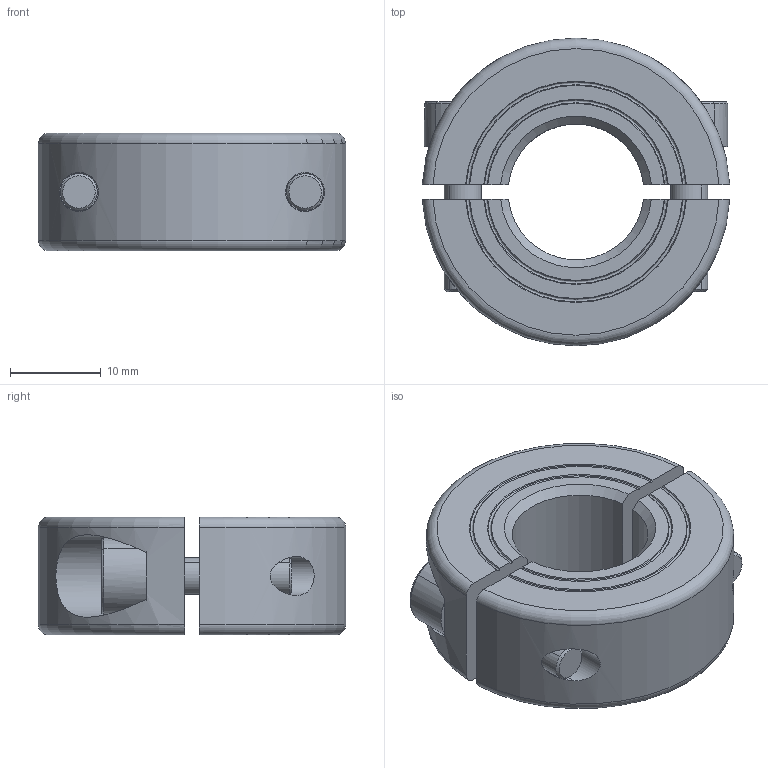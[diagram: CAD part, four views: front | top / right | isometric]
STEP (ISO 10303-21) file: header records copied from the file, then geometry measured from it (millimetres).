
FILE_DESCRIPTION((''),'2;1');
FILE_NAME('MSP-15-X','2016-09-09T',('SYSTEM'),(''),'PRO/ENGINEER BY PARAMETRIC TECHNOLOGY CORPORATION, 2015110','PRO/ENGINEER BY PARAMETRIC TECHNOLOGY CORPORATION, 2015110','');
FILE_SCHEMA(('AUTOMOTIVE_DESIGN { 1 0 10303 214 1 1 1 1 }'));
Length unit declared in the file: inch
Products named in the file (1): MSP-15-X
Bounding box: 33.96 x 34 x 13 mm (x, y, z)
Volume: 8647 mm3; surface area: 5023.6 mm2
Topology: 2 solids, 2 shells, 90 faces, 223 edges, 145 vertices
Faces by surface type: plane 36, cylinder 26, cone 20, torus 8
Entity records: 2978 total; most frequent: CARTESIAN_POINT 796, ORIENTED_EDGE 446, DIRECTION 430, EDGE_CURVE 223, AXIS2_PLACEMENT_3D 168, VERTEX_POINT 145, EDGE_LOOP 102, VECTOR 94
